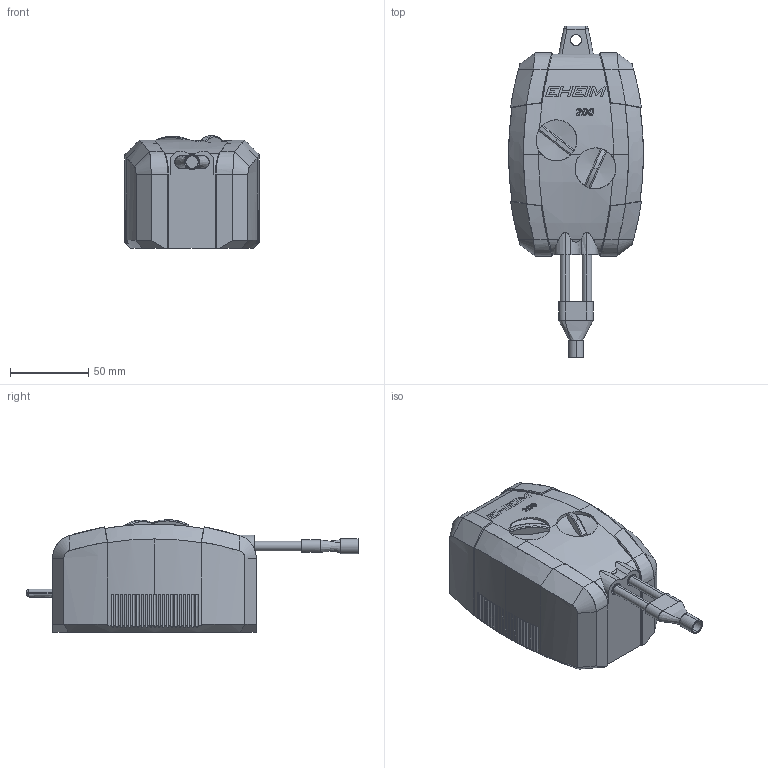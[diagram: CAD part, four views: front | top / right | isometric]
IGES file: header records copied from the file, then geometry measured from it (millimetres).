
Start section: SolidWorks IGES file using analytic representation for surfaces
Global section: file name: C:\Users\user\Documents\Inventor\Home Ventilator CPAP\Air pump aquarium.IGS; native system: SolidWorks 2018; preprocessor: SolidWorks 2018; author: user; date: 200329.192612; units: millimetre
Bounding box: 86 x 212 x 71.85 mm (x, y, z)
Surface area: 49641.4 mm2 (no closed solid volume)
Topology: 0 solids, 0 shells, 310 faces, 5165 edges, 5161 vertices
Faces by surface type: bspline 172, revolution 138
